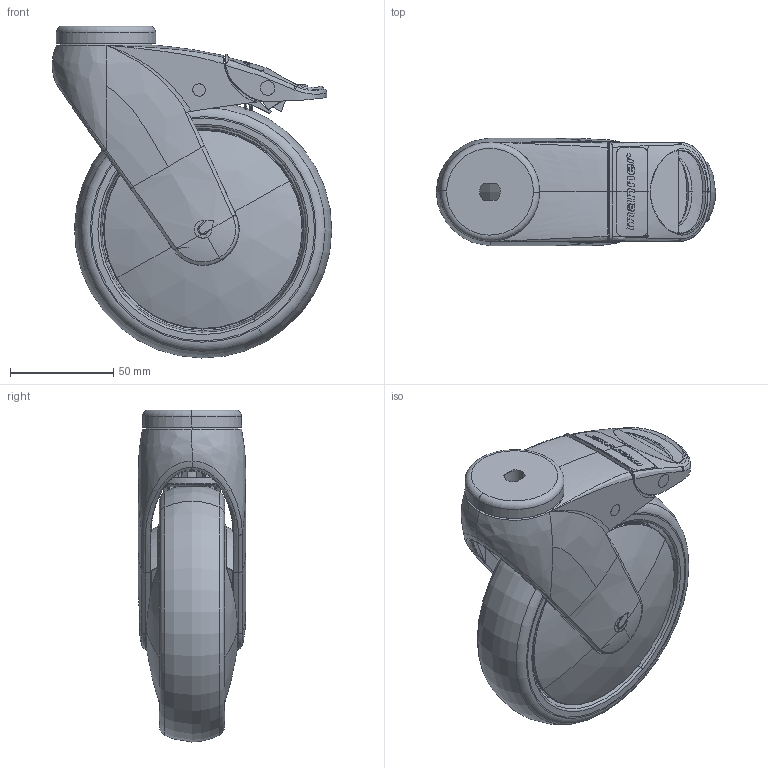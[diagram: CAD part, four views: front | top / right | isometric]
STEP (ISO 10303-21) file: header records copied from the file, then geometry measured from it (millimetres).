
FILE_DESCRIPTION (( 'STEP AP203' ), '1' );
FILE_NAME ('301639_STEP.STEP', '2011-06-10T07:02:55', ( '' ), ( '' ), 'SwSTEP 2.0', 'SolidWorks 2011', '' );
FILE_SCHEMA (( 'CONFIG_CONTROL_DESIGN' ));
Length unit declared in the file: millimetre
Products named in the file (1): 301639_STEP
Bounding box: 135.25 x 52 x 160.7 mm (x, y, z)
Surface area: 114273.2 mm2 (no closed solid volume)
Topology: 0 solids, 29 shells, 600 faces, 2860 edges, 2215 vertices
Faces by surface type: bspline 292, plane 136, cylinder 93, torus 43, cone 32, sphere 4
Entity records: 95967 total; most frequent: CARTESIAN_POINT 77866, ORIENTED_EDGE 4593, EDGE_CURVE 2848, VERTEX_POINT 2215, DIRECTION 2025, B_SPLINE_CURVE_WITH_KNOTS 1713, AXIS2_PLACEMENT_3D 736, EDGE_LOOP 632
